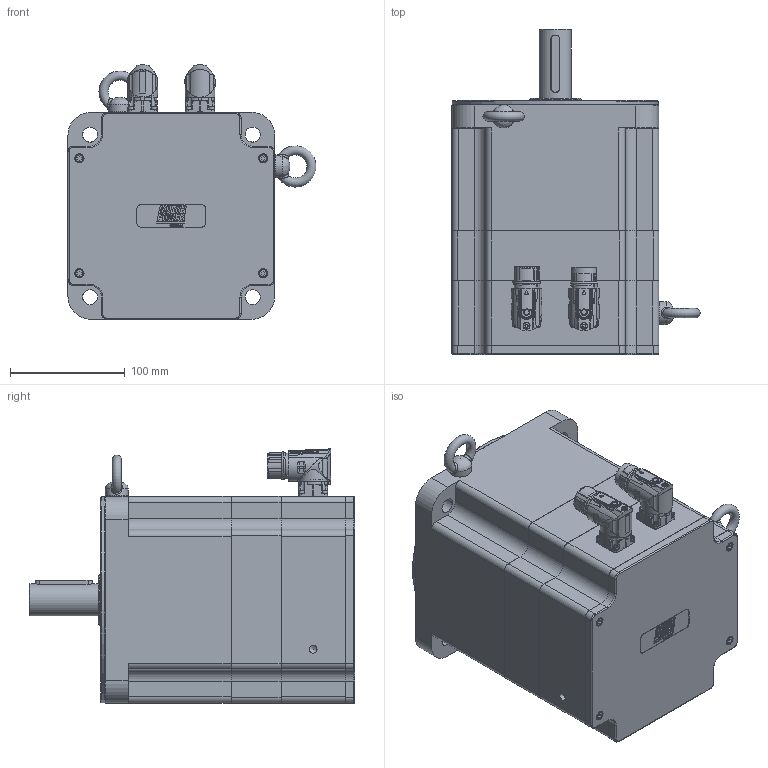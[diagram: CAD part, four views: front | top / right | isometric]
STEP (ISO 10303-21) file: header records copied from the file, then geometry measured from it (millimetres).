
FILE_DESCRIPTION(/* description */ ('Unknown'),/* implementation_level */ '2;1');
FILE_NAME(/* name */ 'TC4-180.7A.X X.X.3.XX.1.X.G2.00.00 Q0B808',/* time_stamp */ '2026-03-10T12:12:06+01:00',/* author */ ('Unknown'),/* organization */ ('Unknown'),/* preprocessor_version */ 'ST-DEVELOPER v19.4',/* originating_system */ 'Solid Edge',/* authorisation */ 'Unknown');
FILE_SCHEMA (('AUTOMOTIVE_DESIGN {1 0 10303 214 3 1 1}'));
Products named in the file (17): Q0B808 7A FRENO VUOTO; 005256003057; Albero TC4-180 7A FRENO pred ECI1119; 003103040231; 007117000456; 003155002230; Coperchio campana TC4-180; 005113000610; 005119001104; 005911000185; 005911000479; 005321000010; 005911000180; 003251040631; 005308000115; Corpo TC4-180 7A V7; 007117000454
Assembly tree (34 placements, depth 2):
  Q0B808 7A FRENO VUOTO
    005256003057
    Albero TC4-180 7A FRENO pred ECI1119
    003103040231
    007117000456
    003155002230
    Coperchio campana TC4-180
    005113000610
    005119001104
    005911000185  x8
    005911000479  x8
    005321000010  x2
    005911000180  x4
    003251040631
    005308000115
    Corpo TC4-180 7A V7
    007117000454
Bounding box: 215.96 x 283 x 221.5 mm (x, y, z)
Volume: 2929956.3 mm3; surface area: 761541.1 mm2
Topology: 35 solids, 61 shells, 2608 faces, 6894 edges, 4492 vertices
Faces by surface type: plane 1079, cylinder 697, cone 336, bspline 290, torus 147, sphere 59
Full cylindrical faces by diameter (mm): 0.5 x1, 1 x21, 1.2 x17, 1.4 x4, 2 x4, 2.013 x16, 2.459 x2, 2.5 x8, 2.8 x4, 3 x12, 3.242 x12, 4 x5, 4.134 x16, 4.2 x8, 4.5 x10, 4.7 x8, 4.917 x6, 5 x9, 5.5 x10, 5.8 x1, 5.9 x2, 6 x1, 6.647 x14, 6.8 x1, 7 x6, 8 x8, 8.376 x2, 9 x4, 10 x3, 14 x4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
Entity records: 92604 total; most frequent: CARTESIAN_POINT 24146, ORIENTED_EDGE 10950, DIRECTION 10929, EDGE_CURVE 5683, AXIS2_PLACEMENT_3D 4221, VERTEX_POINT 3985, FACE_BOUND 3093, EDGE_LOOP 3059
